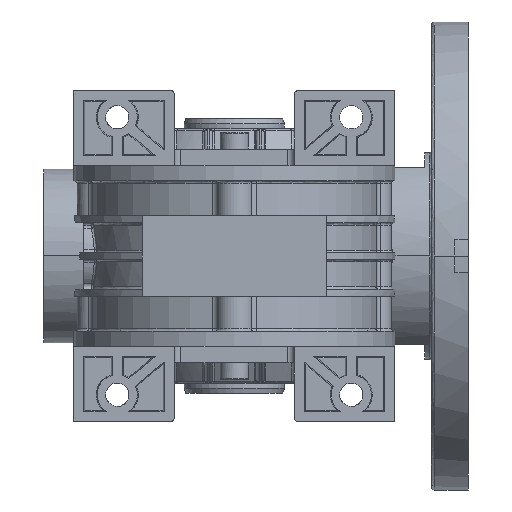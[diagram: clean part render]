
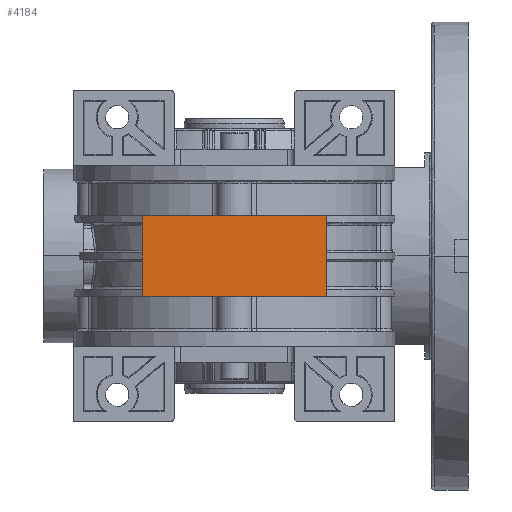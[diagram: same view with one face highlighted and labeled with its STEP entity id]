
A CAD part, front view. The second image highlights one B-rep face of the part: STEP entity #4184.
In plain terms, the highlighted planar face has unit normal (0, -1, 0).
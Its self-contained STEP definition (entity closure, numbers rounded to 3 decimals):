
#4071 = ORIENTED_EDGE ( 'NONE', *, *, #37362, .F. ) ;
#4184 = ADVANCED_FACE ( 'NONE', ( #55680 ), #55683, .T. ) ;
#4187 = EDGE_LOOP ( 'NONE', ( #4191, #4196, #4204, #4071 ) ) ;
#4191 = ORIENTED_EDGE ( 'NONE', *, *, #16024, .F. ) ;
#4196 = ORIENTED_EDGE ( 'NONE', *, *, #4198, .T. ) ;
#4198 = EDGE_CURVE ( 'NONE', #15917, #18947, #55734, .T. ) ;
#4204 = ORIENTED_EDGE ( 'NONE', *, *, #18945, .F. ) ;
#15917 = VERTEX_POINT ( 'NONE', #38231 ) ;
#16024 = EDGE_CURVE ( 'NONE', #15917, #16026, #39352, .T. ) ;
#16026 = VERTEX_POINT ( 'NONE', #39339 ) ;
#18932 = VERTEX_POINT ( 'NONE', #102716 ) ;
#18945 = EDGE_CURVE ( 'NONE', #18932, #18947, #102708, .T. ) ;
#18947 = VERTEX_POINT ( 'NONE', #102694 ) ;
#37362 = EDGE_CURVE ( 'NONE', #16026, #18932, #106108, .T. ) ;
#38231 = CARTESIAN_POINT ( 'NONE',  ( -27.5, -48., 12. ) ) ;
#39339 = CARTESIAN_POINT ( 'NONE',  ( 27.5, -48., 12. ) ) ;
#39344 = DIRECTION ( 'NONE',  ( 1., 0., 0. ) ) ;
#39346 = VECTOR ( 'NONE', #39344, 1000. ) ;
#39349 = CARTESIAN_POINT ( 'NONE',  ( 0.671, -48., 12. ) ) ;
#39352 = LINE ( 'NONE', #39349, #39346 ) ;
#55668 = DIRECTION ( 'NONE',  ( 1., 0., 0. ) ) ;
#55670 = DIRECTION ( 'NONE',  ( 0., -1., 0. ) ) ;
#55671 = CARTESIAN_POINT ( 'NONE',  ( 0., -48., 0. ) ) ;
#55673 = AXIS2_PLACEMENT_3D ( 'NONE', #55671, #55670, #55668 ) ;
#55680 = FACE_OUTER_BOUND ( 'NONE', #4187, .T. ) ;
#55683 = PLANE ( 'NONE',  #55673 ) ;
#55731 = DIRECTION ( 'NONE',  ( 0., 0., -1. ) ) ;
#55732 = VECTOR ( 'NONE', #55731, 1000. ) ;
#55733 = CARTESIAN_POINT ( 'NONE',  ( -27.5, -48., 0. ) ) ;
#55734 = LINE ( 'NONE', #55733, #55732 ) ;
#102694 = CARTESIAN_POINT ( 'NONE',  ( -27.5, -48., -12. ) ) ;
#102705 = DIRECTION ( 'NONE',  ( -1., 0., 0. ) ) ;
#102706 = VECTOR ( 'NONE', #102705, 1000. ) ;
#102707 = CARTESIAN_POINT ( 'NONE',  ( 0.671, -48., -12. ) ) ;
#102708 = LINE ( 'NONE', #102707, #102706 ) ;
#102716 = CARTESIAN_POINT ( 'NONE',  ( 27.5, -48., -12. ) ) ;
#106105 = DIRECTION ( 'NONE',  ( 0., 0., -1. ) ) ;
#106106 = VECTOR ( 'NONE', #106105, 1000. ) ;
#106107 = CARTESIAN_POINT ( 'NONE',  ( 27.5, -48., -1. ) ) ;
#106108 = LINE ( 'NONE', #106107, #106106 ) ;
